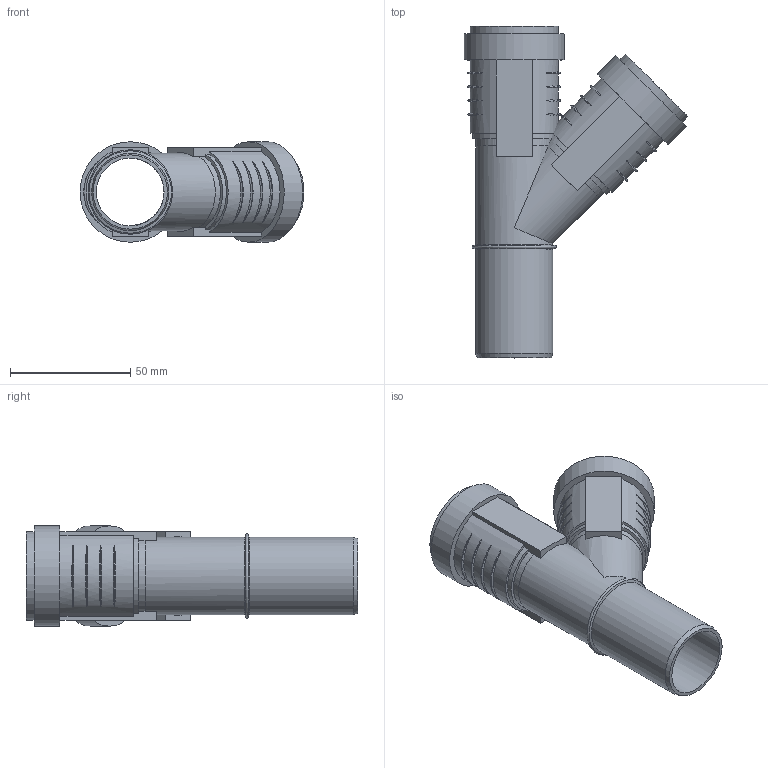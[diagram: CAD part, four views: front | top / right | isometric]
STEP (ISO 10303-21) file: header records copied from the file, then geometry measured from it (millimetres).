
FILE_DESCRIPTION(/* description */ (''),/* implementation_level */ '2;1');
FILE_NAME(/* name */ 'Z:\Geberit\Export\NewStep\390030.stp',/* time_stamp */ '2014-04-02T08:08:18+02:00',/* author */ ('ML'),/* organization */ (''),/* preprocessor_version */ 'ST-DEVELOPER v15.2',/* originating_system */ 'Autodesk Inventor 2014',/* authorisation */ '');
FILE_SCHEMA (('AUTOMOTIVE_DESIGN { 1 0 10303 214 3 1 1 }'));
Length unit declared in the file: millimetre
Products named in the file (4): 861588; 861632; 861632_1; 390030
Bounding box: 93.17 x 138.05 x 41.8 mm (x, y, z)
Volume: 47468.3 mm3; surface area: 47759.7 mm2
Topology: 3 solids, 3 shells, 128 faces, 321 edges, 223 vertices
Faces by surface type: torus 49, plane 37, cylinder 34, cone 7, bspline 1
Full cylindrical faces by diameter (mm): 28.15 x4, 32.15 x4, 32.8 x4, 36.8 x2, 37.8 x2, 41.8 x2
Entity records: 5129 total; most frequent: CARTESIAN_POINT 2083, ORIENTED_EDGE 572, DIRECTION 561, EDGE_CURVE 286, AXIS2_PLACEMENT_3D 244, VERTEX_POINT 214, EDGE_LOOP 184, ADVANCED_FACE 127
